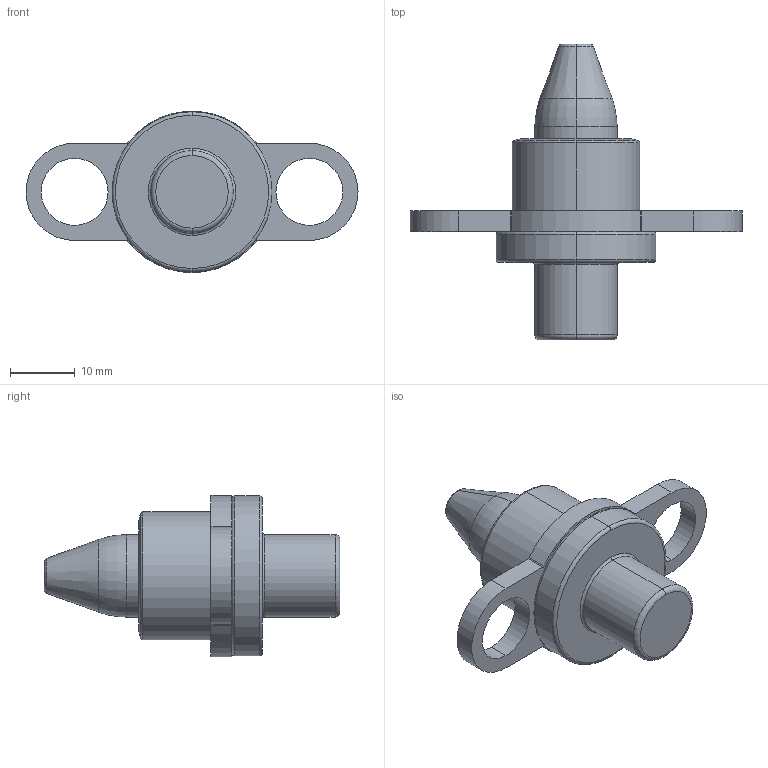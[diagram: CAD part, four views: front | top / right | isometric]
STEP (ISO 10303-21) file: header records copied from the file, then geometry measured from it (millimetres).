
FILE_DESCRIPTION (( 'STEP AP214' ), '1' );
FILE_NAME ('PA-.500-.075-R-F.stp', '2020-05-01T18:37:38', ( '' ), ( '' ), 'SwSTEP 2.0', 'SolidWorks 2017', '' );
FILE_SCHEMA (( 'AUTOMOTIVE_DESIGN' ));
Length unit declared in the file: inch
Products named in the file (1): PA-.500-.075-R-F
Bounding box: 51.16 x 45.59 x 24.85 mm (x, y, z)
Volume: 10503.8 mm3; surface area: 4525.9 mm2
Topology: 2 solids, 2 shells, 52 faces, 117 edges, 72 vertices
Faces by surface type: cylinder 23, torus 14, plane 11, cone 4
Entity records: 1538 total; most frequent: DIRECTION 301, CARTESIAN_POINT 242, ORIENTED_EDGE 234, AXIS2_PLACEMENT_3D 131, EDGE_CURVE 117, CIRCLE 78, VERTEX_POINT 72, EDGE_LOOP 61
